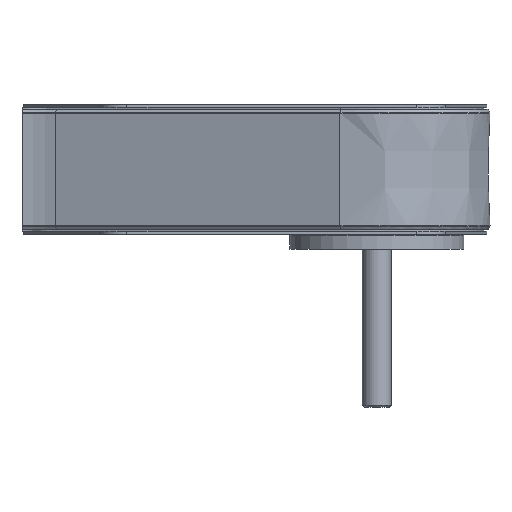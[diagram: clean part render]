
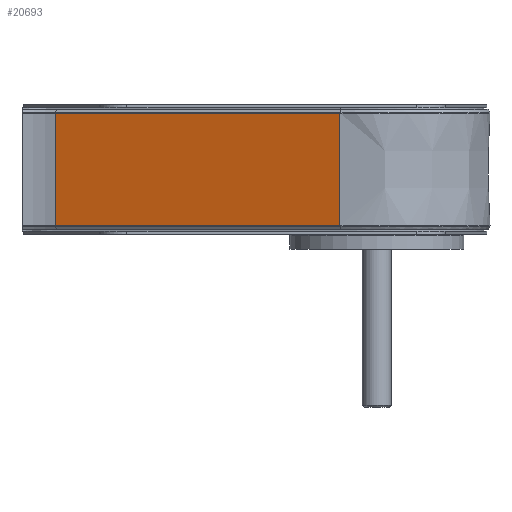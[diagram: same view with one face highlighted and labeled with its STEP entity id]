
A CAD part, front view. The second image highlights one B-rep face of the part: STEP entity #20693.
In plain terms, the highlighted planar face has unit normal (-0.326, -0.945, 0).
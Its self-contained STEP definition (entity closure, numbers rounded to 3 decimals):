
#59 = LINE ( 'NONE', #14168, #15494 ) ;
#601 = VECTOR ( 'NONE', #21623, 1000. ) ;
#945 = LINE ( 'NONE', #19074, #17795 ) ;
#2015 = DIRECTION ( 'NONE',  ( 0., 0., 1. ) ) ;
#3587 = ORIENTED_EDGE ( 'NONE', *, *, #19376, .F. ) ;
#3964 = DIRECTION ( 'NONE',  ( 0.945, -0.326, 0. ) ) ;
#4112 = CARTESIAN_POINT ( 'NONE',  ( -25.503, -73.856, 0. ) ) ;
#5039 = EDGE_CURVE ( 'NONE', #19953, #13140, #14292, .T. ) ;
#5253 = DIRECTION ( 'NONE',  ( -0.945, 0.326, 0. ) ) ;
#5651 = CARTESIAN_POINT ( 'NONE',  ( -25.503, -73.856, 38.866 ) ) ;
#6106 = DIRECTION ( 'NONE',  ( -0.326, -0.945, 0. ) ) ;
#7464 = VERTEX_POINT ( 'NONE', #23023 ) ;
#7972 = EDGE_CURVE ( 'NONE', #13140, #7464, #59, .T. ) ;
#8257 = ORIENTED_EDGE ( 'NONE', *, *, #13854, .F. ) ;
#8547 = AXIS2_PLACEMENT_3D ( 'NONE', #4112, #6106, #3964 ) ;
#8641 = ORIENTED_EDGE ( 'NONE', *, *, #5039, .T. ) ;
#8645 = ORIENTED_EDGE ( 'NONE', *, *, #7972, .T. ) ;
#12293 = DIRECTION ( 'NONE',  ( 0., 0., 1. ) ) ;
#12706 = CARTESIAN_POINT ( 'NONE',  ( -25.503, -73.856, -38.866 ) ) ;
#13140 = VERTEX_POINT ( 'NONE', #5651 ) ;
#13854 = EDGE_CURVE ( 'NONE', #17230, #7464, #945, .T. ) ;
#14168 = CARTESIAN_POINT ( 'NONE',  ( -25.503, -73.856, 38.866 ) ) ;
#14292 = LINE ( 'NONE', #23056, #16558 ) ;
#15494 = VECTOR ( 'NONE', #5253, 1000. ) ;
#16314 = EDGE_LOOP ( 'NONE', ( #8641, #8645, #8257, #3587 ) ) ;
#16558 = VECTOR ( 'NONE', #12293, 1000. ) ;
#17101 = PLANE ( 'NONE',  #8547 ) ;
#17230 = VERTEX_POINT ( 'NONE', #19746 ) ;
#17795 = VECTOR ( 'NONE', #2015, 1000. ) ;
#18869 = LINE ( 'NONE', #12706, #601 ) ;
#19074 = CARTESIAN_POINT ( 'NONE',  ( -221.462, -6.19, 0. ) ) ;
#19241 = FACE_OUTER_BOUND ( 'NONE', #16314, .T. ) ;
#19376 = EDGE_CURVE ( 'NONE', #19953, #17230, #18869, .T. ) ;
#19746 = CARTESIAN_POINT ( 'NONE',  ( -221.462, -6.19, -38.866 ) ) ;
#19953 = VERTEX_POINT ( 'NONE', #21602 ) ;
#20693 = ADVANCED_FACE ( 'NONE', ( #19241 ), #17101, .T. ) ;
#21602 = CARTESIAN_POINT ( 'NONE',  ( -25.503, -73.856, -38.866 ) ) ;
#21623 = DIRECTION ( 'NONE',  ( -0.945, 0.326, 0. ) ) ;
#23023 = CARTESIAN_POINT ( 'NONE',  ( -221.462, -6.19, 38.866 ) ) ;
#23056 = CARTESIAN_POINT ( 'NONE',  ( -25.503, -73.856, 0. ) ) ;
